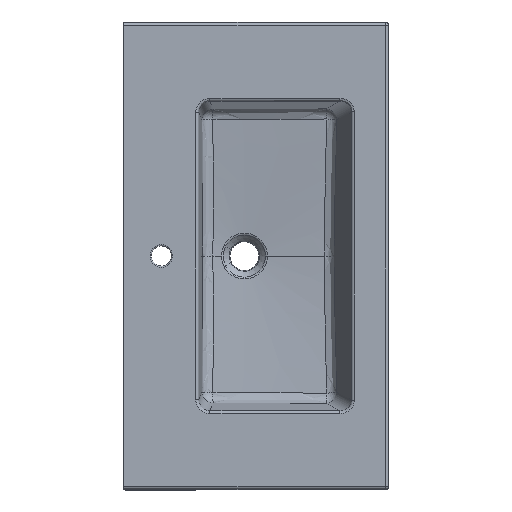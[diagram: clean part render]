
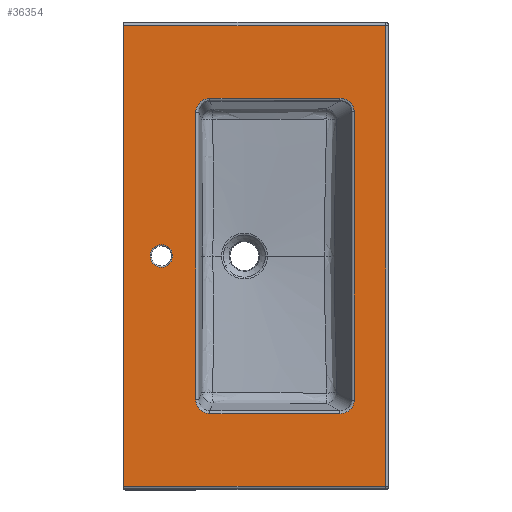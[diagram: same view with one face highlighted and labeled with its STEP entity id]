
A CAD part, top view. The second image highlights one B-rep face of the part: STEP entity #36354.
In plain terms, the highlighted planar face has unit normal (0, 0, 1).
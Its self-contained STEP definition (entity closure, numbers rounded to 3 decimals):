
#35907=AXIS2_PLACEMENT_3D('Circle Axis2P3D',#35905,#35906,$) ;
#35931=AXIS2_PLACEMENT_3D('Circle Axis2P3D',#35929,#35930,$) ;
#36228=AXIS2_PLACEMENT_3D('Plane Axis2P3D',#36225,#36226,#36227) ;
#35479=CARTESIAN_POINT('Vertex',(0.,-400.418,0.)) ;
#35482=CARTESIAN_POINT('Line Origine',(0.,0.,0.)) ;
#35486=CARTESIAN_POINT('Vertex',(0.,400.418,0.)) ;
#35691=CARTESIAN_POINT('Vertex',(455.32,-400.418,0.)) ;
#35714=CARTESIAN_POINT('Vertex',(455.32,400.418,0.)) ;
#35717=CARTESIAN_POINT('Line Origine',(455.32,-16.592,0.)) ;
#35750=CARTESIAN_POINT('Line Origine',(230.167,400.418,0.)) ;
#35767=CARTESIAN_POINT('Line Origine',(230.167,-400.418,0.)) ;
#35902=CARTESIAN_POINT('Vertex',(85.228,0.,0.)) ;
#35905=CARTESIAN_POINT('Axis2P3D Location',(65.728,0.,0.)) ;
#35909=CARTESIAN_POINT('Vertex',(46.228,0.,0.)) ;
#35929=CARTESIAN_POINT('Axis2P3D Location',(65.728,0.,0.)) ;
#36225=CARTESIAN_POINT('Axis2P3D Location',(0.,0.,0.)) ;
#36236=CARTESIAN_POINT('Line Origine',(125.418,0.,0.)) ;
#36240=CARTESIAN_POINT('Vertex',(125.418,-248.954,0.)) ;
#36242=CARTESIAN_POINT('Vertex',(125.418,248.954,0.)) ;
#36246=CARTESIAN_POINT('Control Point',(125.418,248.954,0.)) ;
#36247=CARTESIAN_POINT('Control Point',(125.418,250.83,0.)) ;
#36248=CARTESIAN_POINT('Control Point',(125.588,252.708,0.)) ;
#36249=CARTESIAN_POINT('Control Point',(125.927,254.565,0.)) ;
#36250=CARTESIAN_POINT('Control Point',(127.058,258.607,0.)) ;
#36251=CARTESIAN_POINT('Control Point',(128.996,262.346,0.)) ;
#36252=CARTESIAN_POINT('Control Point',(130.296,264.274,0.)) ;
#36253=CARTESIAN_POINT('Control Point',(133.295,267.762,0.)) ;
#36254=CARTESIAN_POINT('Control Point',(137.017,270.47,0.)) ;
#36255=CARTESIAN_POINT('Control Point',(139.009,271.592,0.)) ;
#36256=CARTESIAN_POINT('Control Point',(142.389,273.003,0.)) ;
#36257=CARTESIAN_POINT('Control Point',(145.955,273.762,0.)) ;
#36258=CARTESIAN_POINT('Control Point',(147.317,273.954,0.)) ;
#36259=CARTESIAN_POINT('Control Point',(148.688,274.049,0.)) ;
#36260=CARTESIAN_POINT('Control Point',(150.059,274.049,0.)) ;
#36261=CARTESIAN_POINT('Vertex',(150.059,274.049,0.)) ;
#36264=CARTESIAN_POINT('Line Origine',(262.98,274.049,0.)) ;
#36268=CARTESIAN_POINT('Vertex',(375.9,274.049,0.)) ;
#36272=CARTESIAN_POINT('Control Point',(375.9,274.049,0.)) ;
#36273=CARTESIAN_POINT('Control Point',(377.809,274.049,0.)) ;
#36274=CARTESIAN_POINT('Control Point',(379.72,273.887,0.)) ;
#36275=CARTESIAN_POINT('Control Point',(381.615,273.557,0.)) ;
#36276=CARTESIAN_POINT('Control Point',(385.637,272.475,0.)) ;
#36277=CARTESIAN_POINT('Control Point',(389.378,270.595,0.)) ;
#36278=CARTESIAN_POINT('Control Point',(391.272,269.356,0.)) ;
#36279=CARTESIAN_POINT('Control Point',(394.816,266.376,0.)) ;
#36280=CARTESIAN_POINT('Control Point',(397.533,262.61,0.)) ;
#36281=CARTESIAN_POINT('Control Point',(398.663,260.513,0.)) ;
#36282=CARTESIAN_POINT('Control Point',(399.913,257.233,0.)) ;
#36283=CARTESIAN_POINT('Control Point',(400.527,253.805,0.)) ;
#36284=CARTESIAN_POINT('Control Point',(400.658,252.685,0.)) ;
#36285=CARTESIAN_POINT('Control Point',(400.724,251.562,0.)) ;
#36286=CARTESIAN_POINT('Control Point',(400.724,250.439,0.)) ;
#36287=CARTESIAN_POINT('Vertex',(400.724,250.439,0.)) ;
#36290=CARTESIAN_POINT('Line Origine',(400.724,0.,0.)) ;
#36294=CARTESIAN_POINT('Vertex',(400.724,-250.439,0.)) ;
#36298=CARTESIAN_POINT('Control Point',(400.724,-250.439,0.)) ;
#36299=CARTESIAN_POINT('Control Point',(400.724,-251.752,0.)) ;
#36300=CARTESIAN_POINT('Control Point',(400.634,-253.066,0.)) ;
#36301=CARTESIAN_POINT('Control Point',(400.454,-254.374,0.)) ;
#36302=CARTESIAN_POINT('Control Point',(399.784,-257.551,0.)) ;
#36303=CARTESIAN_POINT('Control Point',(398.565,-260.576,0.)) ;
#36304=CARTESIAN_POINT('Control Point',(397.654,-262.288,0.)) ;
#36305=CARTESIAN_POINT('Control Point',(395.467,-265.516,0.)) ;
#36306=CARTESIAN_POINT('Control Point',(392.661,-268.215,0.)) ;
#36307=CARTESIAN_POINT('Control Point',(391.114,-269.418,0.)) ;
#36308=CARTESIAN_POINT('Control Point',(387.363,-271.77,0.)) ;
#36309=CARTESIAN_POINT('Control Point',(383.193,-273.244,0.)) ;
#36310=CARTESIAN_POINT('Control Point',(380.782,-273.784,0.)) ;
#36311=CARTESIAN_POINT('Control Point',(378.339,-274.049,0.)) ;
#36312=CARTESIAN_POINT('Control Point',(375.9,-274.049,0.)) ;
#36313=CARTESIAN_POINT('Vertex',(375.9,-274.049,0.)) ;
#36316=CARTESIAN_POINT('Line Origine',(262.98,-274.049,0.)) ;
#36320=CARTESIAN_POINT('Vertex',(150.059,-274.049,0.)) ;
#36324=CARTESIAN_POINT('Control Point',(150.059,-274.049,0.)) ;
#36325=CARTESIAN_POINT('Control Point',(147.794,-274.049,0.)) ;
#36326=CARTESIAN_POINT('Control Point',(145.529,-273.789,0.)) ;
#36327=CARTESIAN_POINT('Control Point',(143.302,-273.266,0.)) ;
#36328=CARTESIAN_POINT('Control Point',(139.011,-271.71,0.)) ;
#36329=CARTESIAN_POINT('Control Point',(135.192,-269.211,0.)) ;
#36330=CARTESIAN_POINT('Control Point',(133.437,-267.745,0.)) ;
#36331=CARTESIAN_POINT('Control Point',(130.43,-264.577,0.)) ;
#36332=CARTESIAN_POINT('Control Point',(128.182,-260.843,0.)) ;
#36333=CARTESIAN_POINT('Control Point',(127.297,-258.954,0.)) ;
#36334=CARTESIAN_POINT('Control Point',(126.208,-255.835,0.)) ;
#36335=CARTESIAN_POINT('Control Point',(125.632,-252.596,0.)) ;
#36336=CARTESIAN_POINT('Control Point',(125.489,-251.385,0.)) ;
#36337=CARTESIAN_POINT('Control Point',(125.418,-250.169,0.)) ;
#36338=CARTESIAN_POINT('Control Point',(125.418,-248.954,0.)) ;
#35483=DIRECTION('Vector Direction',(0.,1.,0.)) ;
#35718=DIRECTION('Vector Direction',(0.,1.,0.)) ;
#35751=DIRECTION('Vector Direction',(1.,0.,0.)) ;
#35768=DIRECTION('Vector Direction',(1.,0.,0.)) ;
#35906=DIRECTION('Axis2P3D Direction',(-0.,0.,1.)) ;
#35930=DIRECTION('Axis2P3D Direction',(0.,-0.,1.)) ;
#36226=DIRECTION('Axis2P3D Direction',(0.,0.,1.)) ;
#36227=DIRECTION('Axis2P3D XDirection',(1.,0.,0.)) ;
#36237=DIRECTION('Vector Direction',(0.,-1.,0.)) ;
#36265=DIRECTION('Vector Direction',(-1.,0.,0.)) ;
#36291=DIRECTION('Vector Direction',(0.,1.,0.)) ;
#36317=DIRECTION('Vector Direction',(-1.,0.,0.)) ;
#35484=VECTOR('Line Direction',#35483,1.) ;
#35719=VECTOR('Line Direction',#35718,1.) ;
#35752=VECTOR('Line Direction',#35751,1.) ;
#35769=VECTOR('Line Direction',#35768,1.) ;
#36238=VECTOR('Line Direction',#36237,1.) ;
#36266=VECTOR('Line Direction',#36265,1.) ;
#36292=VECTOR('Line Direction',#36291,1.) ;
#36318=VECTOR('Line Direction',#36317,1.) ;
#36231=ORIENTED_EDGE('',*,*,#35488,.F.) ;
#36232=ORIENTED_EDGE('',*,*,#35771,.T.) ;
#36233=ORIENTED_EDGE('',*,*,#35721,.T.) ;
#36234=ORIENTED_EDGE('',*,*,#35754,.T.) ;
#36341=ORIENTED_EDGE('',*,*,#36244,.T.) ;
#36342=ORIENTED_EDGE('',*,*,#36263,.T.) ;
#36343=ORIENTED_EDGE('',*,*,#36270,.T.) ;
#36344=ORIENTED_EDGE('',*,*,#36289,.T.) ;
#36345=ORIENTED_EDGE('',*,*,#36296,.T.) ;
#36346=ORIENTED_EDGE('',*,*,#36315,.T.) ;
#36347=ORIENTED_EDGE('',*,*,#36322,.T.) ;
#36348=ORIENTED_EDGE('',*,*,#36339,.T.) ;
#36351=ORIENTED_EDGE('',*,*,#35933,.F.) ;
#36352=ORIENTED_EDGE('',*,*,#35911,.F.) ;
#36349=FACE_BOUND('',#36340,.T.) ;
#36353=FACE_BOUND('',#36350,.T.) ;
#36354=ADVANCED_FACE('7223',(#36235,#36349,#36353),#36229,.T.) ;
#36245=B_SPLINE_CURVE_WITH_KNOTS('',5,(#36246,#36247,#36248,#36249,#36250,#36251,#36252,#36253,#36254,#36255,#36256,#36257,#36258,#36259,#36260),.UNSPECIFIED.,.F.,.U.,(6,3,3,3,6),(76.932,89.005,103.784,118.292,127.077),.UNSPECIFIED.) ;
#36271=B_SPLINE_CURVE_WITH_KNOTS('',5,(#36272,#36273,#36274,#36275,#36276,#36277,#36278,#36279,#36280,#36281,#36282,#36283,#36284,#36285,#36286),.UNSPECIFIED.,.F.,.U.,(6,3,3,3,6),(81.44,93.83,108.249,123.33,130.548),.UNSPECIFIED.) ;
#36297=B_SPLINE_CURVE_WITH_KNOTS('',5,(#36298,#36299,#36300,#36301,#36302,#36303,#36304,#36305,#36306,#36307,#36308,#36309,#36310,#36311,#36312),.UNSPECIFIED.,.F.,.U.,(6,3,3,3,6),(82.397,90.838,103.166,115.666,131.502),.UNSPECIFIED.) ;
#36323=B_SPLINE_CURVE_WITH_KNOTS('',5,(#36324,#36325,#36326,#36327,#36328,#36329,#36330,#36331,#36332,#36333,#36334,#36335,#36336,#36337,#36338),.UNSPECIFIED.,.F.,.U.,(6,3,3,3,6),(77.287,91.8,106.319,119.611,127.432),.UNSPECIFIED.) ;
#35908=CIRCLE('generated circle',#35907,19.5) ;
#35932=CIRCLE('generated circle',#35931,19.5) ;
#35488=EDGE_CURVE('',#35480,#35487,#35485,.T.) ;
#35721=EDGE_CURVE('',#35692,#35715,#35720,.T.) ;
#35754=EDGE_CURVE('',#35715,#35487,#35753,.F.) ;
#35771=EDGE_CURVE('',#35480,#35692,#35770,.T.) ;
#35911=EDGE_CURVE('',#35903,#35910,#35908,.T.) ;
#35933=EDGE_CURVE('',#35910,#35903,#35932,.T.) ;
#36244=EDGE_CURVE('',#36241,#36243,#36239,.F.) ;
#36263=EDGE_CURVE('',#36243,#36262,#36245,.T.) ;
#36270=EDGE_CURVE('',#36262,#36269,#36267,.F.) ;
#36289=EDGE_CURVE('',#36269,#36288,#36271,.T.) ;
#36296=EDGE_CURVE('',#36288,#36295,#36293,.F.) ;
#36315=EDGE_CURVE('',#36295,#36314,#36297,.T.) ;
#36322=EDGE_CURVE('',#36314,#36321,#36319,.T.) ;
#36339=EDGE_CURVE('',#36321,#36241,#36323,.T.) ;
#36230=EDGE_LOOP('',(#36231,#36232,#36233,#36234)) ;
#36340=EDGE_LOOP('',(#36341,#36342,#36343,#36344,#36345,#36346,#36347,#36348)) ;
#36350=EDGE_LOOP('',(#36351,#36352)) ;
#36235=FACE_OUTER_BOUND('',#36230,.T.) ;
#35485=LINE('Line',#35482,#35484) ;
#35720=LINE('Line',#35717,#35719) ;
#35753=LINE('Line',#35750,#35752) ;
#35770=LINE('Line',#35767,#35769) ;
#36239=LINE('Line',#36236,#36238) ;
#36267=LINE('Line',#36264,#36266) ;
#36293=LINE('Line',#36290,#36292) ;
#36319=LINE('Line',#36316,#36318) ;
#36229=PLANE('Plane',#36228) ;
#35480=VERTEX_POINT('',#35479) ;
#35487=VERTEX_POINT('',#35486) ;
#35692=VERTEX_POINT('',#35691) ;
#35715=VERTEX_POINT('',#35714) ;
#35903=VERTEX_POINT('',#35902) ;
#35910=VERTEX_POINT('',#35909) ;
#36241=VERTEX_POINT('',#36240) ;
#36243=VERTEX_POINT('',#36242) ;
#36262=VERTEX_POINT('',#36261) ;
#36269=VERTEX_POINT('',#36268) ;
#36288=VERTEX_POINT('',#36287) ;
#36295=VERTEX_POINT('',#36294) ;
#36314=VERTEX_POINT('',#36313) ;
#36321=VERTEX_POINT('',#36320) ;
